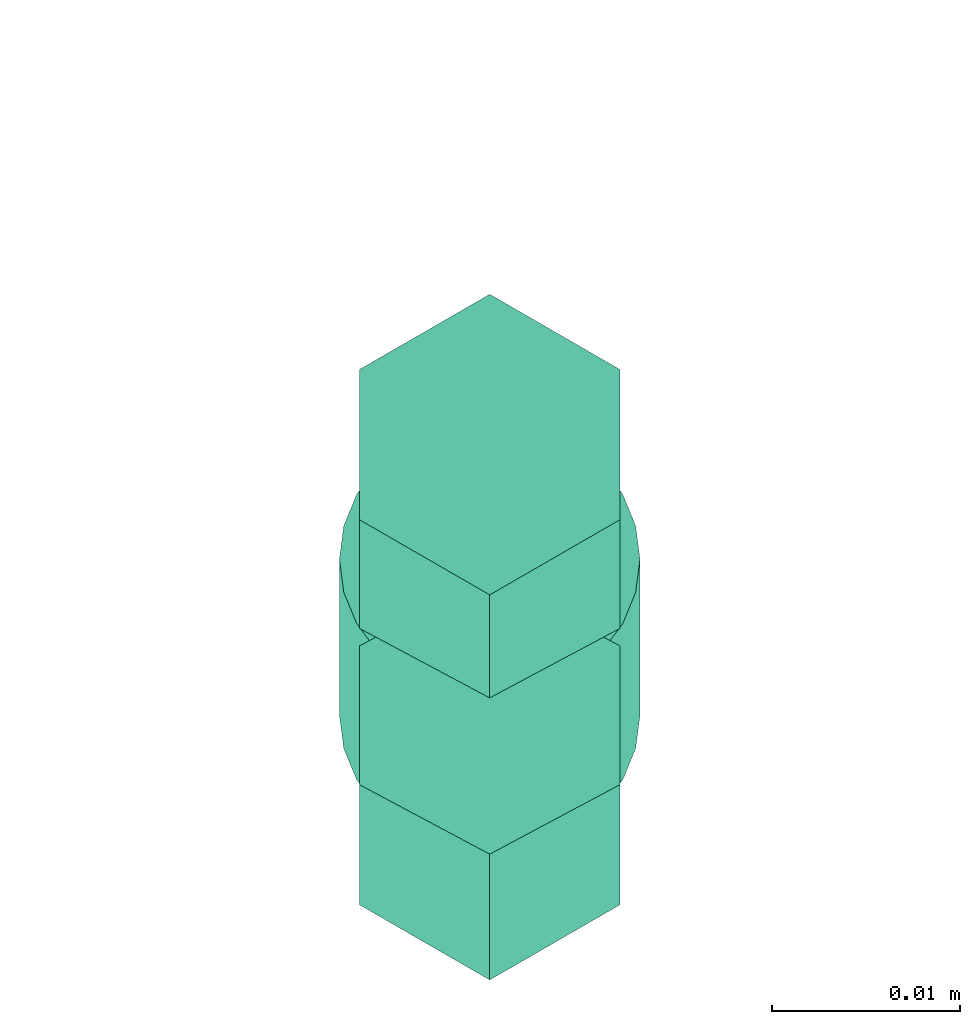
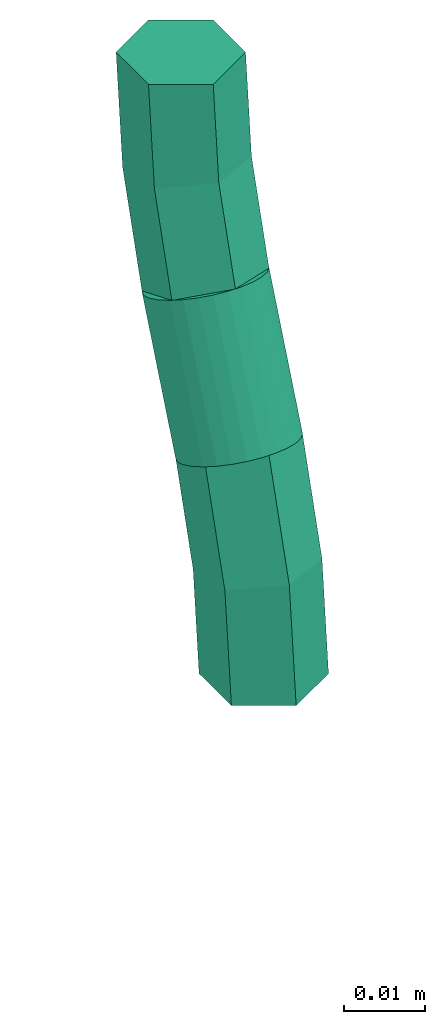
# One storey, part 2 of 2: 2 flow fittings, 1 flow segment.
"""IFC2X3 building model written with IfcOpenShell, lengths in millimetres."""

from ifc_helpers import new_model, entity, si_unit, converted_unit, derived_unit, direction, frame, origin, origin_2d_with_axis, place, context, subcontext, project, spatial, circle, extrude, faceted_brep, source, transform, mapped, material, type_object, type_shapes, element, save


model = new_model("IFC2X3")

# Units and contexts
model_context = context("Model", 3, precision=0.01, world=origin(), true_north=direction((6.12303176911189e-17, 1.0)))
body_context = subcontext(model_context, "Body", "Model", "MODEL_VIEW")
ifc_project = project(units=[si_unit("LENGTHUNIT", "METRE", prefix="MILLI"), si_unit("AREAUNIT", "SQUARE_METRE"), si_unit("VOLUMEUNIT", "CUBIC_METRE"), converted_unit("PLANEANGLEUNIT", "DEGREE", entity("IfcRatioMeasure", 0.0174532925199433), si_unit("PLANEANGLEUNIT", "RADIAN"), dimensions=[0, 0, 0, 0, 0, 0, 0]), si_unit("MASSUNIT", "GRAM", prefix="KILO"), derived_unit("MASSDENSITYUNIT", [(si_unit("MASSUNIT", "GRAM", prefix="KILO"), 1), (si_unit("LENGTHUNIT", "METRE"), -3)]), derived_unit("MOMENTOFINERTIAUNIT", [(si_unit("LENGTHUNIT", "METRE"), 4)]), si_unit("TIMEUNIT", "SECOND"), si_unit("FREQUENCYUNIT", "HERTZ"), si_unit("THERMODYNAMICTEMPERATUREUNIT", "DEGREE_CELSIUS"), derived_unit("THERMALTRANSMITTANCEUNIT", [(si_unit("MASSUNIT", "GRAM", prefix="KILO"), 1), (si_unit("THERMODYNAMICTEMPERATUREUNIT", "KELVIN"), -1), (si_unit("TIMEUNIT", "SECOND"), -3)]), derived_unit("VOLUMETRICFLOWRATEUNIT", [(si_unit("LENGTHUNIT", "METRE"), 3), (si_unit("TIMEUNIT", "SECOND"), -1)]), si_unit("ELECTRICCURRENTUNIT", "AMPERE"), si_unit("ELECTRICVOLTAGEUNIT", "VOLT"), si_unit("POWERUNIT", "WATT"), si_unit("FORCEUNIT", "NEWTON", prefix="KILO"), si_unit("ILLUMINANCEUNIT", "LUX"), si_unit("LUMINOUSFLUXUNIT", "LUMEN"), si_unit("LUMINOUSINTENSITYUNIT", "CANDELA"), derived_unit("USERDEFINED", [(si_unit("MASSUNIT", "GRAM", prefix="KILO"), -1), (si_unit("LENGTHUNIT", "METRE"), -2), (si_unit("TIMEUNIT", "SECOND"), 3), (si_unit("LUMINOUSFLUXUNIT", "LUMEN"), 1)]), derived_unit("LINEARVELOCITYUNIT", [(si_unit("LENGTHUNIT", "METRE"), 1), (si_unit("TIMEUNIT", "SECOND"), -1)]), si_unit("PRESSUREUNIT", "PASCAL"), derived_unit("USERDEFINED", [(si_unit("LENGTHUNIT", "METRE"), -2), (si_unit("MASSUNIT", "GRAM", prefix="KILO"), 1), (si_unit("TIMEUNIT", "SECOND"), -2)]), derived_unit("LINEARFORCEUNIT", [(si_unit("MASSUNIT", "GRAM", prefix="KILO"), 1), (si_unit("LENGTHUNIT", "METRE"), 1), (si_unit("TIMEUNIT", "SECOND"), -2), (si_unit("LENGTHUNIT", "METRE"), -1)]), derived_unit("PLANARFORCEUNIT", [(si_unit("MASSUNIT", "GRAM", prefix="KILO"), 1), (si_unit("LENGTHUNIT", "METRE"), 1), (si_unit("TIMEUNIT", "SECOND"), -2), (si_unit("LENGTHUNIT", "METRE"), -2)])], contexts=[model_context])

# Site, building, storey
site_placement = place(None, origin())
site = spatial("IfcSite", under=ifc_project, at=site_placement, Name="Default", CompositionType="ELEMENT")
building_placement = place(site_placement, origin())
building = spatial("IfcBuilding", under=site, at=building_placement, CompositionType="ELEMENT")
storey_placement = place(building_placement, origin())
storey = spatial("IfcBuildingStorey", under=building, at=storey_placement, Name="Nível 1", CompositionType="ELEMENT", Elevation=0.0)

# Flow segment
pipe_segment_type = type_object("IfcPipeSegmentType", Name="Tipos de tubos:Astra - PERT - Mola Curvadora AQ", PredefinedType="NOTDEFINED")
flow_segment_placement = place(storey_placement, origin())
element("IfcFlowSegment", 1, at=flow_segment_placement, inside=storey, type_object=pipe_segment_type, Name="Tipos de tubos:Astra - PERT - Mola Curvadora AQ", ObjectType="Tipos de tubos:Astra - PERT - Mola Curvadora AQ", context=body_context, shape_type="SweptSolid", body=[
    extrude(circle(Radius=8.0, at=origin_2d_with_axis()), frame((-5221.85022284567, 3929.72657477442, 68866.1587429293), z_axis=(0.0, 0.382683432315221, 0.923879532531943), x_axis=(1.0, 0.0, 0.0)), (0.0, 0.0, 1.0), 21.732895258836),
])

# Flow fittings
ifc_material = material(Name="Polietileno Reticulado - PEX")
pipe_fitting_type = type_object("IfcPipeFittingType", Name="Astra - Curva (Mola Curvadora):Astra - Curva (Mola Curvadora)", PredefinedType="NOTDEFINED", material=ifc_material)
shared_shape = source(origin(), body_context, "Body", "Brep", [
    faceted_brep([(1.25495894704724, -6.30910467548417, 0.0), (0.474597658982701, -2.38596355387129, -6.92820323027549), (16.2324189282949, 2.39411926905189, -6.92820323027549), (17.7631526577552, -1.30139886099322, 0.0), (-1.08612491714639, 5.46031868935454, -6.92820323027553), (13.1709514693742, 9.78515552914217, -6.92820323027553), (-1.86648620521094, 9.3834598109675, 0.0), (11.6402177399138, 13.4806736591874, 0.0), (-1.0861249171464, 5.46031868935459, 6.9282032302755), (13.1709514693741, 9.78515552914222, 6.9282032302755), (0.47459765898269, -2.38596355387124, 6.92820323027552), (16.2324189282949, 2.39411926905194, 6.92820323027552), (-15.912989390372, -8.0, 0.0), (-15.9129893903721, -4.0, -6.92820323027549), (-15.9129893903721, 4.0, -6.92820323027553), (-15.9129893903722, 8.0, 0.0), (-15.9129893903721, 4.0, 6.9282032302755), (-15.9129893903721, -4.0, 6.92820323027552)], [[[0, 1, 2, 3]], [[1, 4, 5, 2]], [[4, 6, 7, 5]], [[6, 8, 9, 7]], [[8, 10, 11, 9]], [[10, 0, 3, 11]], [[12, 13, 1, 0]], [[13, 14, 4, 1]], [[14, 15, 6, 4]], [[15, 16, 8, 6]], [[16, 17, 10, 8]], [[17, 12, 0, 10]], [[3, 2, 5, 7, 9, 11]], [[17, 16, 15, 14, 13, 12]]]),
])
type_shapes(pipe_fitting_type, [shared_shape])
for number, where, z_axis, x_axis, name in (
    (2, (-5221.85022284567, 3923.63693737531, 68851.4570577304), (-1.0, 0.0, 0.0), (0.0, 0.0, 1.0), "Astra - Curva (Mola Curvadora):Astra - Curva (Mola Curvadora)"),
    (3, (-5221.85022284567, 3944.13303112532, 68900.9390052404), (1.0, 0.0, 0.0), (0.0, 0.382683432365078, 0.923879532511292), "Astra - Curva (Mola Curvadora):Astra - Curva (Mola Curvadora)"),
):
    element("IfcFlowFitting", number, at=place(storey_placement, frame(where, z_axis=z_axis, x_axis=x_axis)), inside=storey, type_object=pipe_fitting_type, material=ifc_material, Name=name, ObjectType="Astra - Curva (Mola Curvadora):Astra - Curva (Mola Curvadora)", context=body_context, shape_type="MappedRepresentation", body=[
        mapped(shared_shape, transform((0.0, 0.0, 0.0), scale=1.0)),
    ])

save(model, "model.ifc")
